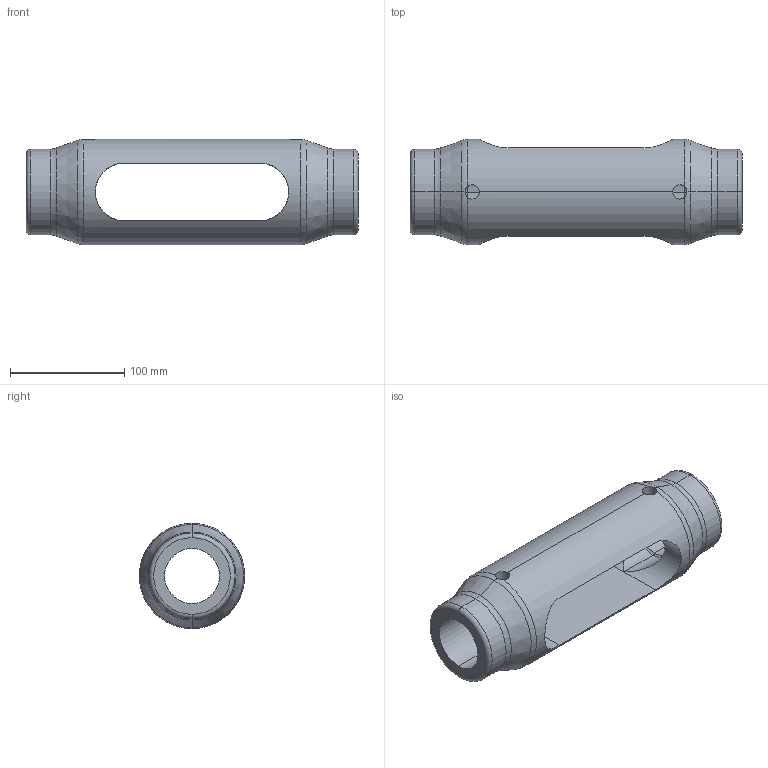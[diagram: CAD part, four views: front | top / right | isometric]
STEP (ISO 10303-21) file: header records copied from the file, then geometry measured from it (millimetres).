
FILE_DESCRIPTION (( 'STEP AP203' ), '1' );
FILE_NAME ('Kreuzmuffe M48.STEP', '2018-03-14T05:21:40', ( 'install' ), ( 'Hewlett-Packard Company' ), 'SwSTEP 2.0', 'SolidWorks 2017', '' );
FILE_SCHEMA (( 'CONFIG_CONTROL_DESIGN' ));
Length unit declared in the file: millimetre
Products named in the file (1): Kreuzmuffe M48
Bounding box: 290 x 92 x 92 mm (x, y, z)
Volume: 822774.2 mm3; surface area: 117491.1 mm2
Topology: 1 solids, 1 shells, 46 faces, 110 edges, 60 vertices
Faces by surface type: cylinder 22, torus 16, cone 4, plane 4
Entity records: 1915 total; most frequent: CARTESIAN_POINT 781, DIRECTION 232, ORIENTED_EDGE 220, EDGE_CURVE 110, AXIS2_PLACEMENT_3D 99, VERTEX_POINT 60, CIRCLE 52, EDGE_LOOP 50
